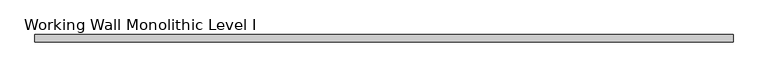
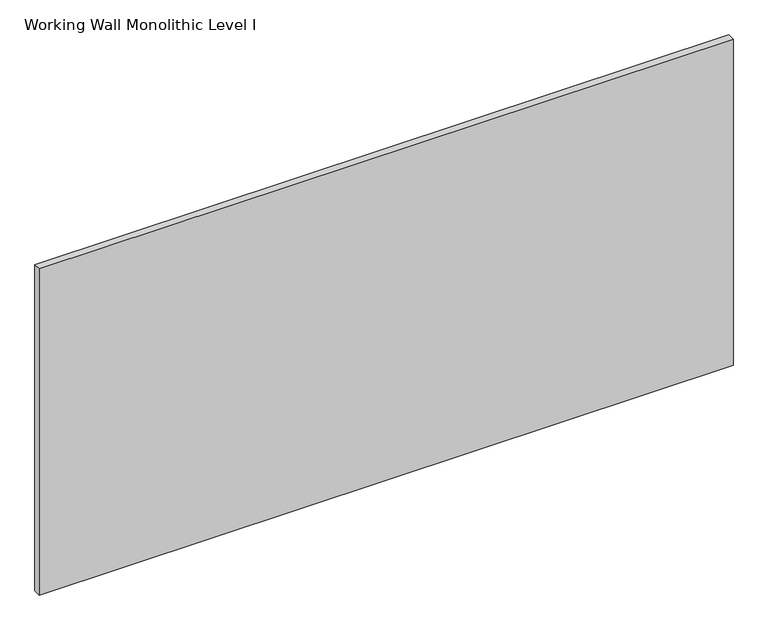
"""IFC4 building model written with IfcOpenShell, lengths in millimetres: proxy geometry, Panel-Fascia-Teknion-Altos-Standard : Working Wall Monolithic Level I."""

from ifc_helpers import new_model, si_unit, frame, origin, place, context, project, spatial, polyline, outline, extrude, source, transform, mapped, element, save


def working_wall_monolithic_level_i_dfc08b04(model_context):
    return source(origin(), model_context, "Body", "SweptSolid", [
        extrude(outline(polyline([(904.2300781, 9.525), (904.2300781, -9.525), (-904.2300781, -9.525), (-904.2300781, 9.525), (904.2300781, 9.525)])), frame((0.0, 0.0, 3.175), z_axis=(0.0, 0.0, 1.0), x_axis=(1.0, 0.0, 0.0)), (0.0, 0.0, 1.0), 898.525),
    ])


if __name__ == "__main__":
    model = new_model("IFC4")
    model_context = context("Model", 3, world=origin())
    ifc_project = project(units=[si_unit("LENGTHUNIT", "METRE", prefix="MILLI")], contexts=[model_context])
    site = spatial("IfcSite", under=ifc_project)
    building = spatial("IfcBuilding", under=site)
    placement = place(None, origin())
    working_wall_monolithic_level_i_shape = working_wall_monolithic_level_i_dfc08b04(model_context)
    element("IfcBuildingElementProxy", 1, Name="Panel-Fascia-Teknion-Altos-Standard : Working Wall Monolithic Level I", ObjectType="Panel-Fascia-Teknion-Altos-Standard : Working Wall Monolithic Level I", at=placement, inside=building, context=model_context, shape_type="MappedRepresentation", body=[
        mapped(working_wall_monolithic_level_i_shape, transform((0.0, 0.0, 0.0), x_axis=(1.0, 0.0, 0.0), y_axis=(0.0, 1.0, 0.0), z_axis=(0.0, 0.0, 1.0))),
    ])
    save(model, "model.ifc")
